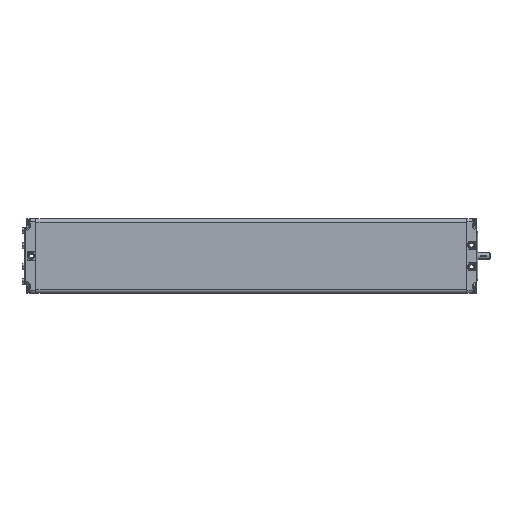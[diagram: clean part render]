
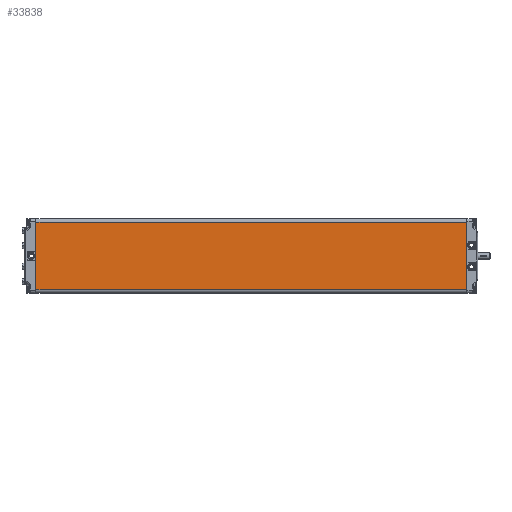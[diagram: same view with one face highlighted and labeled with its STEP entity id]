
A CAD part, top view. The second image highlights one B-rep face of the part: STEP entity #33838.
In plain terms, the highlighted planar face has unit normal (0, 0, 1).
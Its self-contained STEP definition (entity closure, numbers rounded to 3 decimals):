
#3526=LINE('',#72194,#4811);
#3527=LINE('',#72197,#4812);
#3528=LINE('',#72199,#4813);
#3529=LINE('',#72201,#4814);
#4811=VECTOR('',#41052,1000.);
#4812=VECTOR('',#41053,1000.);
#4813=VECTOR('',#41054,1000.);
#4814=VECTOR('',#41055,1000.);
#10108=ORIENTED_EDGE('',*,*,#16173,.T.);
#10109=ORIENTED_EDGE('',*,*,#16174,.T.);
#10110=ORIENTED_EDGE('',*,*,#16175,.T.);
#10111=ORIENTED_EDGE('',*,*,#16176,.T.);
#16173=EDGE_CURVE('',#19431,#19432,#3526,.F.);
#16174=EDGE_CURVE('',#19432,#19433,#3527,.T.);
#16175=EDGE_CURVE('',#19433,#19434,#3528,.T.);
#16176=EDGE_CURVE('',#19434,#19431,#3529,.F.);
#19431=VERTEX_POINT('',#72195);
#19432=VERTEX_POINT('',#72196);
#19433=VERTEX_POINT('',#72198);
#19434=VERTEX_POINT('',#72200);
#22917=EDGE_LOOP('',(#10108,#10109,#10110,#10111));
#24897=FACE_BOUND('',#22917,.T.);
#26031=PLANE('',#36096);
#33838=ADVANCED_FACE('',(#24897),#26031,.T.);
#36096=AXIS2_PLACEMENT_3D('',#72193,#41050,#41051);
#41050=DIRECTION('',(0.,0.,1.));
#41051=DIRECTION('',(1.,0.,0.));
#41052=DIRECTION('',(0.,-1.,0.));
#41053=DIRECTION('',(-1.,0.,0.));
#41054=DIRECTION('',(0.,-1.,0.));
#41055=DIRECTION('',(-1.,0.,0.));
#72193=CARTESIAN_POINT('',(60.,692.5,30.));
#72194=CARTESIAN_POINT('',(54.,692.5,30.));
#72195=CARTESIAN_POINT('',(54.,0.5,30.));
#72196=CARTESIAN_POINT('',(54.,692.,30.));
#72197=CARTESIAN_POINT('',(60.,692.,30.));
#72198=CARTESIAN_POINT('',(-54.,692.,30.));
#72199=CARTESIAN_POINT('',(-54.,692.5,30.));
#72200=CARTESIAN_POINT('',(-54.,0.5,30.));
#72201=CARTESIAN_POINT('',(54.,0.5,30.));
